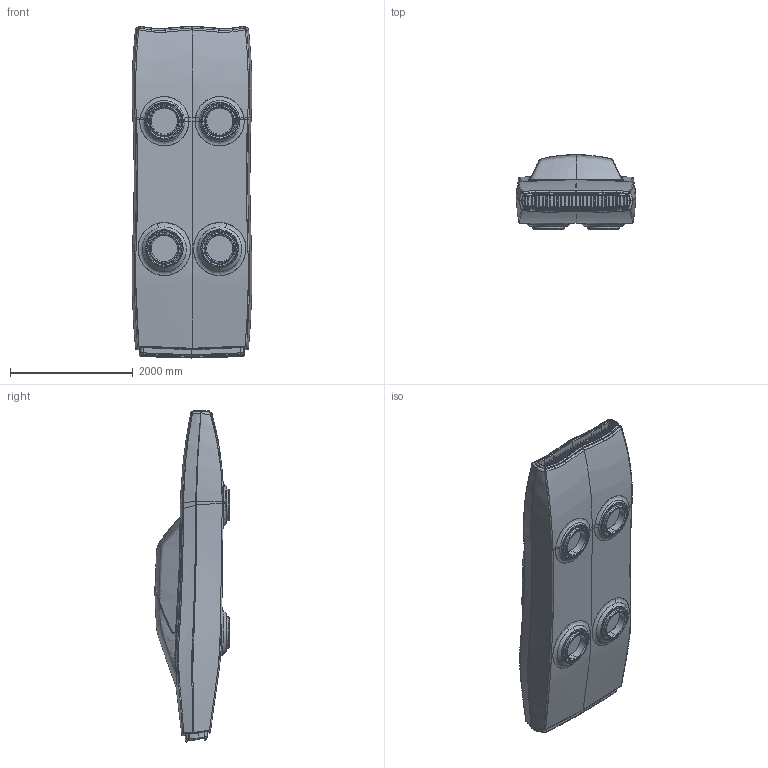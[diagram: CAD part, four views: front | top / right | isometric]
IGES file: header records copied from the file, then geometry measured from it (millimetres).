
Start section: SolidWorks IGES file using analytic representation for surfaces
Global section: file name: C:\Users\WORK\Desktop\Flying charger\Flying charger.IGS; native system: SolidWorks 2012; preprocessor: SolidWorks 2012; author: WORK; date: 161201.004506; units: millimetre
Bounding box: 1946.67 x 1210.71 x 5398.93 mm (x, y, z)
Surface area: 40462838 mm2 (no closed solid volume)
Topology: 0 solids, 0 shells, 983 faces, 13701 edges, 13703 vertices
Faces by surface type: bspline 766, revolution 217
